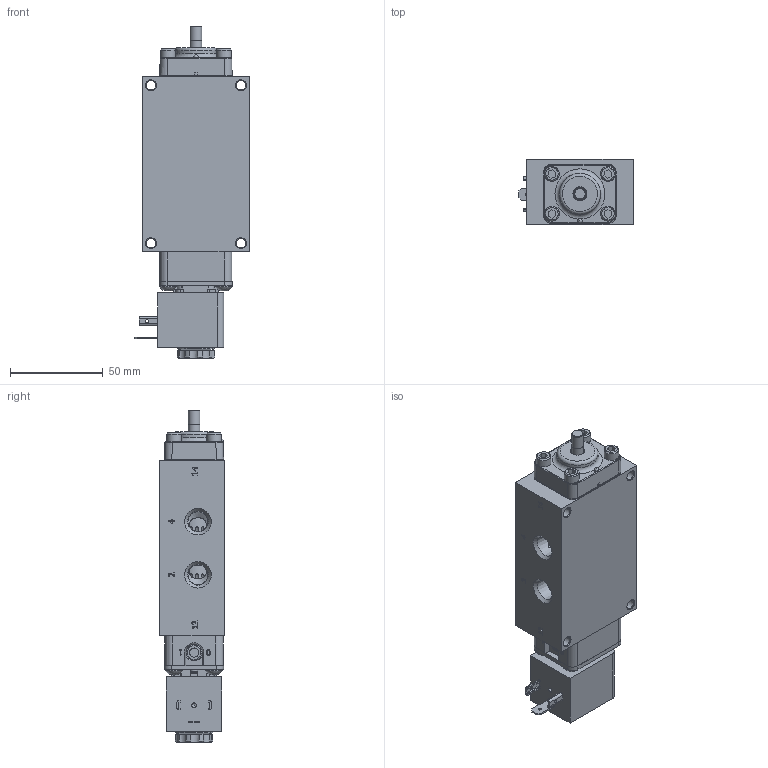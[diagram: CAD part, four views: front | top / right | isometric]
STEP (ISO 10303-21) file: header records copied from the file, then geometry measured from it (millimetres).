
FILE_DESCRIPTION(/* description */ (''),/* implementation_level */ '2;1');
FILE_NAME(/* name */ 'D:\Website Files\stp\Valves\Standard\ESO\ZESO2HK.stp',/* time_stamp */ '2016-05-24T01:06:16-04:00',/* author */ ('RMcKenna'),/* organization */ (''),/* preprocessor_version */ 'ST-DEVELOPER v15.6',/* originating_system */ 'Autodesk Inventor 2015',/* authorisation */ '');
FILE_SCHEMA (('AUTOMOTIVE_DESIGN { 1 0 10303 214 3 1 1 }'));
Products named in the file (1): Part7
Bounding box: 61.39 x 34.92 x 178.56 mm (x, y, z)
Volume: 225172.2 mm3; surface area: 76766.9 mm2
Topology: 1 solids, 20 shells, 1586 faces, 3924 edges, 2498 vertices
Faces by surface type: plane 731, cylinder 378, cone 266, torus 116, bspline 90, sphere 5
Full cylindrical faces by diameter (mm): 1.3 x1, 1.397 x1, 1.5 x2, 1.651 x2, 2.007 x2, 2.032 x8, 2.35 x4, 2.381 x1, 2.5 x1, 2.8 x1, 2.819 x1, 3 x4, 3.048 x1, 3.175 x1, 3.4 x1, 3.683 x9, 4.191 x2, 4.305 x1, 4.394 x1, 4.826 x8, 4.953 x1, 5.15 x4, 5.156 x12, 5.5 x1, 6.35 x4, 6.553 x1, 6.9 x1, 7.188 x1, 7.541 x1, 7.75 x1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
Entity records: 54169 total; most frequent: CARTESIAN_POINT 16758, DIRECTION 7350, ORIENTED_EDGE 7110, EDGE_CURVE 3553, AXIS2_PLACEMENT_3D 2786, VERTEX_POINT 2389, EDGE_LOOP 2036, LINE 1778
